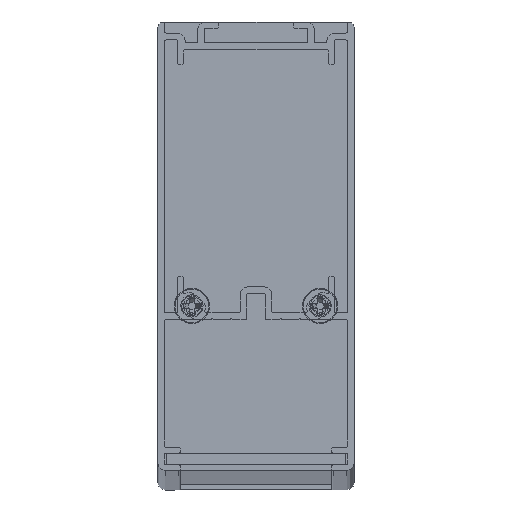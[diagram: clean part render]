
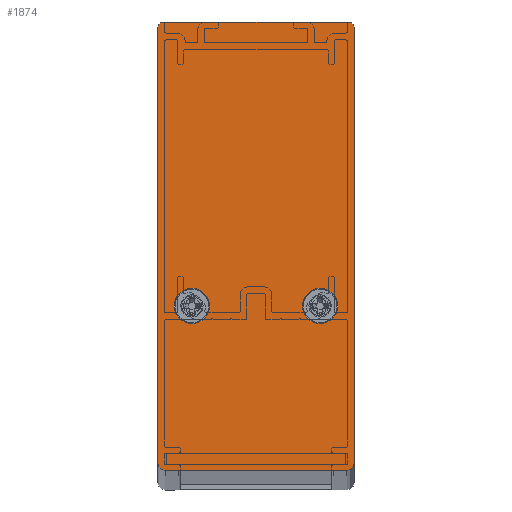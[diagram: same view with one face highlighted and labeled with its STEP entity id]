
A CAD part, top view. The second image highlights one B-rep face of the part: STEP entity #1874.
In plain terms, the highlighted planar face has unit normal (0, 0, 1).
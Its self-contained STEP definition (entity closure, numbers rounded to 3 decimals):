
#1874=ADVANCED_FACE('',(#3485,#3487,#3489),#3491,.T.);
#3485=FACE_BOUND('',#3486,.T.);
#3486=EDGE_LOOP('',(#5166,#5167,#5168,#5169,#5170,#5171,#5172,#5173));
#3487=FACE_BOUND('',#3488,.T.);
#3488=EDGE_LOOP('',(#5174));
#3489=FACE_BOUND('',#3490,.T.);
#3490=EDGE_LOOP('',(#5175));
#3491=PLANE('',#3492);
#3492=AXIS2_PLACEMENT_3D('',#3493,#3494,#3495);
#3493=CARTESIAN_POINT('',(0.,0.,1001.));
#3494=DIRECTION('',(0.,0.,1.));
#3495=DIRECTION('',(1.,0.,0.));
#5166=ORIENTED_EDGE('',*,*,#5946,.T.);
#5167=ORIENTED_EDGE('',*,*,#5947,.T.);
#5168=ORIENTED_EDGE('',*,*,#5948,.T.);
#5169=ORIENTED_EDGE('',*,*,#5949,.T.);
#5170=ORIENTED_EDGE('',*,*,#5950,.T.);
#5171=ORIENTED_EDGE('',*,*,#5951,.T.);
#5172=ORIENTED_EDGE('',*,*,#5952,.T.);
#5173=ORIENTED_EDGE('',*,*,#5953,.T.);
#5174=ORIENTED_EDGE('',*,*,#5954,.T.);
#5175=ORIENTED_EDGE('',*,*,#5955,.T.);
#5946=EDGE_CURVE('',#6965,#6966,#6967,.T.);
#5947=EDGE_CURVE('',#6966,#6968,#6969,.T.);
#5948=EDGE_CURVE('',#6968,#6970,#6971,.T.);
#5949=EDGE_CURVE('',#6970,#6972,#6973,.T.);
#5950=EDGE_CURVE('',#6972,#6974,#6975,.T.);
#5951=EDGE_CURVE('',#6974,#6976,#6977,.T.);
#5952=EDGE_CURVE('',#6976,#6978,#6979,.T.);
#5953=EDGE_CURVE('',#6978,#6965,#6980,.T.);
#5954=EDGE_CURVE('',#6981,#6981,#6982,.F.);
#5955=EDGE_CURVE('',#6983,#6983,#6984,.F.);
#6965=VERTEX_POINT('',#9349);
#6966=VERTEX_POINT('',#9350);
#6967=LINE('',#9351,#9352);
#6968=VERTEX_POINT('',#9354);
#6969=CIRCLE('',#9355,0.9);
#6970=VERTEX_POINT('',#9359);
#6971=LINE('',#9360,#9361);
#6972=VERTEX_POINT('',#9363);
#6973=CIRCLE('',#9364,0.9);
#6974=VERTEX_POINT('',#9368);
#6975=LINE('',#9369,#9370);
#6976=VERTEX_POINT('',#9372);
#6977=CIRCLE('',#9373,1.35);
#6978=VERTEX_POINT('',#9377);
#6979=LINE('',#9378,#9379);
#6980=CIRCLE('',#9381,1.35);
#6981=VERTEX_POINT('',#9385);
#6982=CIRCLE('',#9386,3.);
#6983=VERTEX_POINT('',#9390);
#6984=CIRCLE('',#9391,3.);
#9349=CARTESIAN_POINT('',(17.5,-73.75,1001.));
#9350=CARTESIAN_POINT('',(17.5,4.,1001.));
#9351=CARTESIAN_POINT('',(17.5,-73.75,1001.));
#9352=VECTOR('',#9353,1.);
#9353=DIRECTION('',(0.,1.,0.));
#9354=CARTESIAN_POINT('',(16.6,4.9,1001.));
#9355=AXIS2_PLACEMENT_3D('',#9356,#9357,#9358);
#9356=CARTESIAN_POINT('',(16.6,4.,1001.));
#9357=DIRECTION('',(-0.,0.,1.));
#9358=DIRECTION('',(1.,0.,0.));
#9359=CARTESIAN_POINT('',(-16.6,4.9,1001.));
#9360=CARTESIAN_POINT('',(16.6,4.9,1001.));
#9361=VECTOR('',#9362,1.);
#9362=DIRECTION('',(-1.,0.,0.));
#9363=CARTESIAN_POINT('',(-17.5,4.,1001.));
#9364=AXIS2_PLACEMENT_3D('',#9365,#9366,#9367);
#9365=CARTESIAN_POINT('',(-16.6,4.,1001.));
#9366=DIRECTION('',(0.,0.,1.));
#9367=DIRECTION('',(0.,1.,0.));
#9368=CARTESIAN_POINT('',(-17.5,-73.75,1001.));
#9369=CARTESIAN_POINT('',(-17.5,4.,1001.));
#9370=VECTOR('',#9371,1.);
#9371=DIRECTION('',(0.,-1.,0.));
#9372=CARTESIAN_POINT('',(-16.15,-75.1,1001.));
#9373=AXIS2_PLACEMENT_3D('',#9374,#9375,#9376);
#9374=CARTESIAN_POINT('',(-16.15,-73.75,1001.));
#9375=DIRECTION('',(0.,0.,1.));
#9376=DIRECTION('',(-1.,0.,0.));
#9377=CARTESIAN_POINT('',(16.15,-75.1,1001.));
#9378=CARTESIAN_POINT('',(-16.15,-75.1,1001.));
#9379=VECTOR('',#9380,1.);
#9380=DIRECTION('',(1.,0.,0.));
#9381=AXIS2_PLACEMENT_3D('',#9382,#9383,#9384);
#9382=CARTESIAN_POINT('',(16.15,-73.75,1001.));
#9383=DIRECTION('',(0.,-0.,1.));
#9384=DIRECTION('',(0.,-1.,0.));
#9385=CARTESIAN_POINT('',(8.45,-45.75,1001.));
#9386=AXIS2_PLACEMENT_3D('',#9387,#9388,#9389);
#9387=CARTESIAN_POINT('',(11.45,-45.75,1001.));
#9388=DIRECTION('',(0.,0.,1.));
#9389=DIRECTION('',(-1.,0.,0.));
#9390=CARTESIAN_POINT('',(-8.45,-45.75,1001.));
#9391=AXIS2_PLACEMENT_3D('',#9392,#9393,#9394);
#9392=CARTESIAN_POINT('',(-11.45,-45.75,1001.));
#9393=DIRECTION('',(0.,0.,1.));
#9394=DIRECTION('',(1.,0.,0.));
